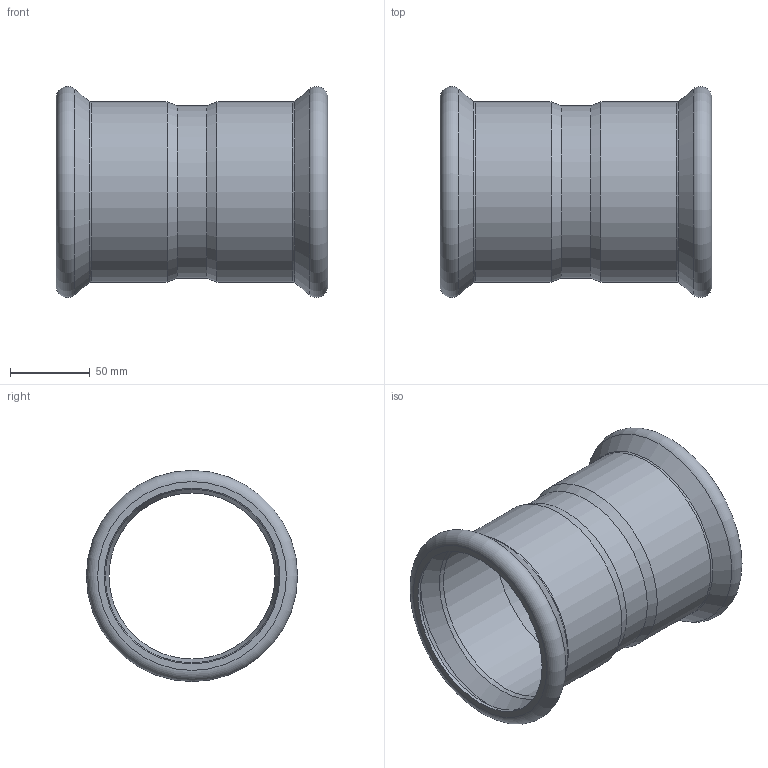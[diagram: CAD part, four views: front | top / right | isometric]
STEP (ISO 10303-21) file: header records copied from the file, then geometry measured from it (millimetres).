
FILE_DESCRIPTION((''),'2;1');
FILE_NAME('G:\Technics\CAD\Bauteile\108\69270108(1).stp','2008-03-19T09:05:38',('herberg'),(''),'Autodesk Inventor 2008','Autodesk Inventor 2008','');
FILE_SCHEMA(('AUTOMOTIVE_DESIGN { 1 0 10303 214 1 1 1 1 }'));
Length unit declared in the file: millimetre
Products named in the file (1): 69270108(1)
Bounding box: 170 x 132.2 x 132.2 mm (x, y, z)
Volume: 136026.9 mm3; surface area: 137419.6 mm2
Topology: 1 solids, 1 shells, 28 faces, 54 edges, 30 vertices
Faces by surface type: cone 8, cylinder 8, plane 4, torus 4, bspline 4
Full cylindrical faces by diameter (mm): 104 x1, 108 x1, 108.7 x2, 110 x2, 112.7 x2
Entity records: 754 total; most frequent: CARTESIAN_POINT 261, DIRECTION 106, ORIENTED_EDGE 56, EDGE_LOOP 56, AXIS2_PLACEMENT_3D 53, VERTEX_POINT 28, CIRCLE 28, EDGE_CURVE 28
